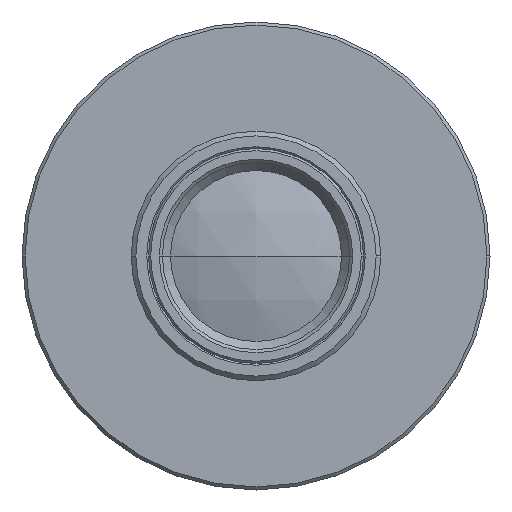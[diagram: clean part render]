
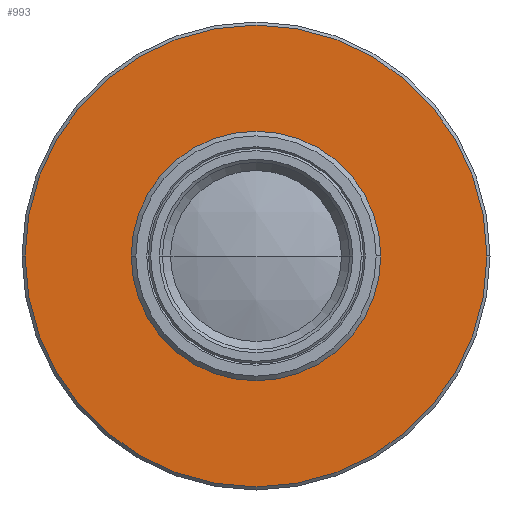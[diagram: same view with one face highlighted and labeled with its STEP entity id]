
A CAD part, left-side view. The second image highlights one B-rep face of the part: STEP entity #993.
In plain terms, the highlighted planar face has unit normal (-1, 0, 0).
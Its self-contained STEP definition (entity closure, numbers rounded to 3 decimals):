
#17 = AXIS2_PLACEMENT_3D ( 'NONE', #464, #1153, #1188 ) ;
#44 = CARTESIAN_POINT ( 'NONE',  ( 49.196, 8., 0. ) ) ;
#82 = CARTESIAN_POINT ( 'NONE',  ( 49.196, -14.8, 0. ) ) ;
#248 = DIRECTION ( 'NONE',  ( 0., -1., 0. ) ) ;
#288 = CIRCLE ( 'NONE', #1626, 14.8 ) ;
#313 = AXIS2_PLACEMENT_3D ( 'NONE', #1203, #478, #1748 ) ;
#329 = VERTEX_POINT ( 'NONE', #1417 ) ;
#385 = DIRECTION ( 'NONE',  ( 1., 0., 0. ) ) ;
#455 = DIRECTION ( 'NONE',  ( -1., 0., 0. ) ) ;
#464 = CARTESIAN_POINT ( 'NONE',  ( 49.196, 0., 0. ) ) ;
#478 = DIRECTION ( 'NONE',  ( 1., 0., 0. ) ) ;
#508 = EDGE_LOOP ( 'NONE', ( #1643, #1507 ) ) ;
#533 = VERTEX_POINT ( 'NONE', #2095 ) ;
#612 = CARTESIAN_POINT ( 'NONE',  ( 49.196, 0., 0. ) ) ;
#781 = AXIS2_PLACEMENT_3D ( 'NONE', #44, #455, #248 ) ;
#818 = CIRCLE ( 'NONE', #1695, 8. ) ;
#837 = CARTESIAN_POINT ( 'NONE',  ( 49.196, 8., 0. ) ) ;
#846 = ORIENTED_EDGE ( 'NONE', *, *, #1253, .T. ) ;
#918 = DIRECTION ( 'NONE',  ( 0., 1., 0. ) ) ;
#993 = ADVANCED_FACE ( 'NONE', ( #2238, #2070 ), #2286, .T. ) ;
#1036 = EDGE_CURVE ( 'NONE', #1051, #329, #1072, .T. ) ;
#1051 = VERTEX_POINT ( 'NONE', #82 ) ;
#1072 = CIRCLE ( 'NONE', #17, 14.8 ) ;
#1099 = ORIENTED_EDGE ( 'NONE', *, *, #1156, .T. ) ;
#1153 = DIRECTION ( 'NONE',  ( 1., 0., 0. ) ) ;
#1156 = EDGE_CURVE ( 'NONE', #533, #2343, #1576, .T. ) ;
#1188 = DIRECTION ( 'NONE',  ( 0., 1., 0. ) ) ;
#1203 = CARTESIAN_POINT ( 'NONE',  ( 49.196, 0., 0. ) ) ;
#1253 = EDGE_CURVE ( 'NONE', #2343, #533, #818, .T. ) ;
#1327 = DIRECTION ( 'NONE',  ( 0., 1., 0. ) ) ;
#1417 = CARTESIAN_POINT ( 'NONE',  ( 49.196, 14.8, 0. ) ) ;
#1507 = ORIENTED_EDGE ( 'NONE', *, *, #1036, .F. ) ;
#1576 = CIRCLE ( 'NONE', #313, 8. ) ;
#1626 = AXIS2_PLACEMENT_3D ( 'NONE', #612, #2084, #1327 ) ;
#1643 = ORIENTED_EDGE ( 'NONE', *, *, #2368, .F. ) ;
#1644 = CARTESIAN_POINT ( 'NONE',  ( 49.196, 0., 0. ) ) ;
#1695 = AXIS2_PLACEMENT_3D ( 'NONE', #1644, #385, #918 ) ;
#1748 = DIRECTION ( 'NONE',  ( 0., 1., 0. ) ) ;
#2070 = FACE_OUTER_BOUND ( 'NONE', #508, .T. ) ;
#2084 = DIRECTION ( 'NONE',  ( 1., 0., 0. ) ) ;
#2090 = EDGE_LOOP ( 'NONE', ( #846, #1099 ) ) ;
#2095 = CARTESIAN_POINT ( 'NONE',  ( 49.196, -8., 0. ) ) ;
#2238 = FACE_BOUND ( 'NONE', #2090, .T. ) ;
#2286 = PLANE ( 'NONE',  #781 ) ;
#2343 = VERTEX_POINT ( 'NONE', #837 ) ;
#2368 = EDGE_CURVE ( 'NONE', #329, #1051, #288, .T. ) ;
